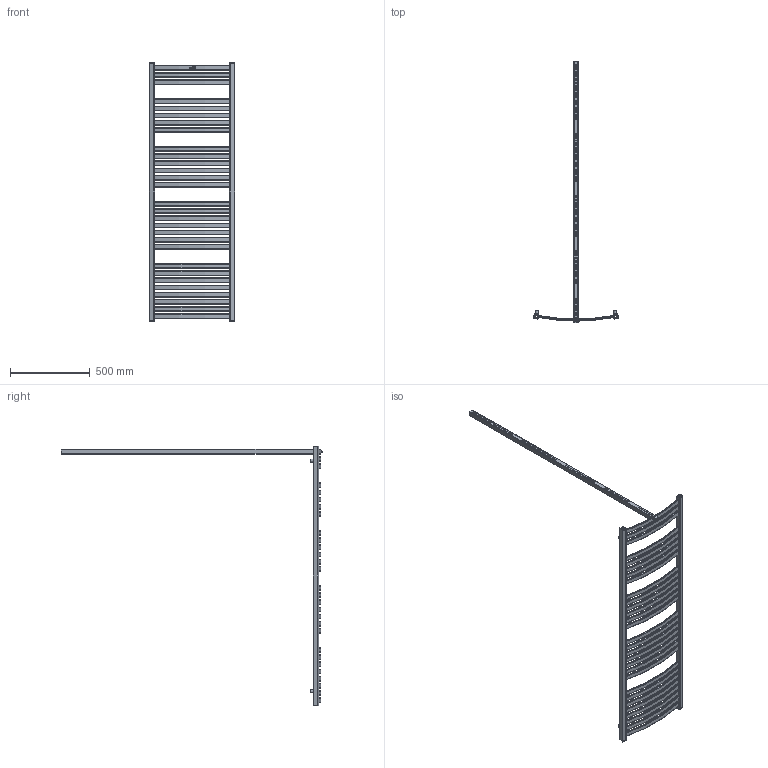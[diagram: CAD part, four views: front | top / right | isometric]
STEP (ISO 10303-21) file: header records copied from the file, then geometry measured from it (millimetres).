
FILE_DESCRIPTION( ( 'Unknown' ), '1' );
FILE_NAME( 'D:/Alplast sp. j/Witryna zespoBu - Projekty/Archiwum/Grzejniki Archiwum/Projekty/STANDARD/AK-EL/AK7-500EL.stp', 'Unknown', ( 'Unknown' ), ( 'Unknown' ), 'PSStep 10.1', 'Unknown', ' ' );
FILE_SCHEMA( ( 'AUTOMOTIVE_DESIGN { 1 0 10303 214 1 1 1 1 }' ) );
Length unit declared in the file: millimetre
Products named in the file (5): Assem1; zaslepka kwadrat otwor; AK7-EPEL; tulejka kat 12stopni; kana³  poziomy lukowy L-500
Bounding box: 534.72 x 1641 x 1630 mm (x, y, z)
Volume: 2308682.9 mm3; surface area: 3094448.2 mm2
Topology: 43 solids, 43 shells, 1430 faces, 4022 edges, 2688 vertices
Faces by surface type: plane 628, cylinder 552, torus 250
Full cylindrical faces by diameter (mm): 16 x5, 18 x5, 18.631 x5, 23 x5
Entity records: 12636 total; most frequent: DIRECTION 1836, CARTESIAN_POINT 1764, ORIENTED_EDGE 1708, EDGE_CURVE 854, AXIS2_PLACEMENT_3D 646, VERTEX_POINT 574, LINE 544, VECTOR 544
